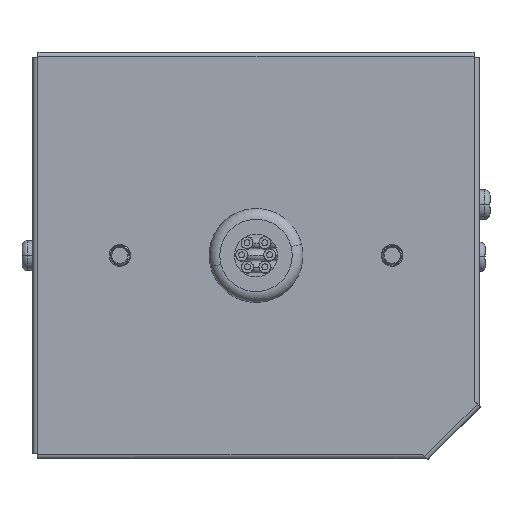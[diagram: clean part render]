
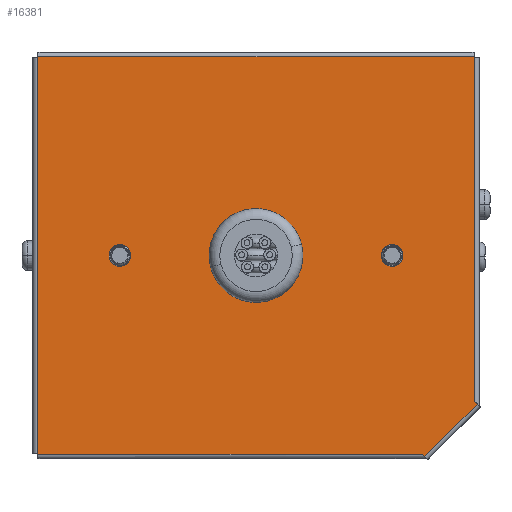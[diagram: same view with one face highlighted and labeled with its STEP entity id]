
A CAD part, top view. The second image highlights one B-rep face of the part: STEP entity #16381.
In plain terms, the highlighted planar face has unit normal (0, 0, 1).
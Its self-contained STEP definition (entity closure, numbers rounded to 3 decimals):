
#10057=DIRECTION('',(0.707,-0.707,0.));
#10058=VECTOR('',#10057,0.566);
#10059=CARTESIAN_POINT('',(31.05,-37.1,0.8));
#10060=LINE('',#10059,#10058);
#10061=DIRECTION('',(0.,-1.,0.));
#10062=VECTOR('',#10061,0.1);
#10063=CARTESIAN_POINT('',(-40.75,-37.,0.8));
#10064=LINE('',#10063,#10062);
#10065=DIRECTION('',(1.,0.,0.));
#10066=VECTOR('',#10065,0.1);
#10067=CARTESIAN_POINT('',(-40.85,-37.,0.8));
#10068=LINE('',#10067,#10066);
#10069=DIRECTION('',(-1.,0.,0.));
#10070=VECTOR('',#10069,0.1);
#10071=CARTESIAN_POINT('',(-40.75,37.,0.8));
#10072=LINE('',#10071,#10070);
#10073=DIRECTION('',(0.,-1.,0.));
#10074=VECTOR('',#10073,0.1);
#10075=CARTESIAN_POINT('',(-40.75,37.1,0.8));
#10076=LINE('',#10075,#10074);
#10077=DIRECTION('',(0.,1.,0.));
#10078=VECTOR('',#10077,0.1);
#10079=CARTESIAN_POINT('',(40.75,37.,0.8));
#10080=LINE('',#10079,#10078);
#10081=DIRECTION('',(-1.,0.,0.));
#10082=VECTOR('',#10081,0.1);
#10083=CARTESIAN_POINT('',(40.85,37.,0.8));
#10084=LINE('',#10083,#10082);
#10085=DIRECTION('',(-0.707,0.707,0.));
#10086=VECTOR('',#10085,0.566);
#10087=CARTESIAN_POINT('',(41.25,-27.7,0.8));
#10088=LINE('',#10087,#10086);
#10089=DIRECTION('',(0.707,0.707,0.));
#10090=VECTOR('',#10089,13.859);
#10091=CARTESIAN_POINT('',(31.45,-37.5,0.8));
#10092=LINE('',#10091,#10090);
#10093=CARTESIAN_POINT('',(25.4,0.,0.8));
#10094=DIRECTION('',(0.,0.,-1.));
#10095=DIRECTION('',(-1.,0.,0.));
#10096=AXIS2_PLACEMENT_3D('',#10093,#10094,#10095);
#10098=CARTESIAN_POINT('',(25.4,0.,0.8));
#10099=DIRECTION('',(0.,0.,-1.));
#10100=DIRECTION('',(1.,0.,0.));
#10101=AXIS2_PLACEMENT_3D('',#10098,#10099,#10100);
#10103=CARTESIAN_POINT('',(25.4,0.,0.8));
#10104=DIRECTION('',(0.,0.,-1.));
#10105=DIRECTION('',(0.,1.,0.));
#10106=AXIS2_PLACEMENT_3D('',#10103,#10104,#10105);
#10108=CARTESIAN_POINT('',(0.,0.,0.8));
#10109=DIRECTION('',(0.,0.,-1.));
#10110=DIRECTION('',(1.,0.,0.));
#10111=AXIS2_PLACEMENT_3D('',#10108,#10109,#10110);
#10113=CARTESIAN_POINT('',(0.,0.,0.8));
#10114=DIRECTION('',(0.,0.,-1.));
#10115=DIRECTION('',(-1.,0.,0.));
#10116=AXIS2_PLACEMENT_3D('',#10113,#10114,#10115);
#10118=CARTESIAN_POINT('',(-25.4,0.,0.8));
#10119=DIRECTION('',(0.,0.,-1.));
#10120=DIRECTION('',(-1.,0.,0.));
#10121=AXIS2_PLACEMENT_3D('',#10118,#10119,#10120);
#10123=CARTESIAN_POINT('',(-25.4,0.,0.8));
#10124=DIRECTION('',(0.,0.,-1.));
#10125=DIRECTION('',(1.,0.,0.));
#10126=AXIS2_PLACEMENT_3D('',#10123,#10124,#10125);
#10128=CARTESIAN_POINT('',(-25.4,0.,0.8));
#10129=DIRECTION('',(0.,0.,-1.));
#10130=DIRECTION('',(0.,1.,0.));
#10131=AXIS2_PLACEMENT_3D('',#10128,#10129,#10130);
#10218=DIRECTION('',(0.,-1.,0.));
#10219=VECTOR('',#10218,64.3);
#10220=CARTESIAN_POINT('',(40.85,37.,0.8));
#10221=LINE('',#10220,#10219);
#10510=DIRECTION('',(1.,0.,0.));
#10511=VECTOR('',#10510,81.5);
#10512=CARTESIAN_POINT('',(-40.75,37.1,0.8));
#10513=LINE('',#10512,#10511);
#10880=DIRECTION('',(0.,1.,0.));
#10881=VECTOR('',#10880,74.);
#10882=CARTESIAN_POINT('',(-40.85,-37.,0.8));
#10883=LINE('',#10882,#10881);
#10922=DIRECTION('',(-1.,0.,0.));
#10923=VECTOR('',#10922,71.8);
#10924=CARTESIAN_POINT('',(31.05,-37.1,0.8));
#10925=LINE('',#10924,#10923);
#13533=CARTESIAN_POINT('',(-23.4,0.,0.8));
#13534=CARTESIAN_POINT('',(-27.4,0.,0.8));
#13535=VERTEX_POINT('',#13533);
#13536=VERTEX_POINT('',#13534);
#13648=CARTESIAN_POINT('',(27.4,0.,0.8));
#13649=VERTEX_POINT('',#13648);
#13650=CARTESIAN_POINT('',(25.4,2.,0.8));
#13651=VERTEX_POINT('',#13650);
#13656=CARTESIAN_POINT('',(23.4,0.,0.8));
#13658=VERTEX_POINT('',#13656);
#13673=CARTESIAN_POINT('',(5.5,0.,0.8));
#13675=VERTEX_POINT('',#13673);
#13691=CARTESIAN_POINT('',(-5.5,0.,0.8));
#13693=VERTEX_POINT('',#13691);
#13706=CARTESIAN_POINT('',(-40.75,37.,0.8));
#13707=CARTESIAN_POINT('',(-40.85,37.,0.8));
#13708=VERTEX_POINT('',#13706);
#13709=VERTEX_POINT('',#13707);
#13722=CARTESIAN_POINT('',(31.45,-37.5,0.8));
#13723=CARTESIAN_POINT('',(41.25,-27.7,0.8));
#13724=VERTEX_POINT('',#13722);
#13725=VERTEX_POINT('',#13723);
#13726=CARTESIAN_POINT('',(40.85,37.,0.8));
#13727=CARTESIAN_POINT('',(40.75,37.,0.8));
#13728=VERTEX_POINT('',#13726);
#13729=VERTEX_POINT('',#13727);
#13732=CARTESIAN_POINT('',(-40.85,-37.,0.8));
#13733=VERTEX_POINT('',#13732);
#13762=CARTESIAN_POINT('',(-40.75,37.1,0.8));
#13763=CARTESIAN_POINT('',(40.75,37.1,0.8));
#13764=VERTEX_POINT('',#13762);
#13765=VERTEX_POINT('',#13763);
#13776=CARTESIAN_POINT('',(-40.75,-37.,0.8));
#13777=VERTEX_POINT('',#13776);
#13782=CARTESIAN_POINT('',(-40.75,-37.1,0.8));
#13783=VERTEX_POINT('',#13782);
#13786=CARTESIAN_POINT('',(31.05,-37.1,0.8));
#13787=VERTEX_POINT('',#13786);
#13796=CARTESIAN_POINT('',(40.85,-27.3,0.8));
#13797=VERTEX_POINT('',#13796);
#13927=CARTESIAN_POINT('',(-25.4,2.,0.8));
#13928=VERTEX_POINT('',#13927);
#16327=CARTESIAN_POINT('',(-40.85,-37.1,0.8));
#16328=DIRECTION('',(0.,0.,1.));
#16329=DIRECTION('',(1.,0.,0.));
#16330=AXIS2_PLACEMENT_3D('',#16327,#16328,#16329);
#16331=PLANE('',#16330);
#16333=ORIENTED_EDGE('',*,*,#16332,.F.);
#16335=ORIENTED_EDGE('',*,*,#16334,.T.);
#16337=ORIENTED_EDGE('',*,*,#16336,.F.);
#16339=ORIENTED_EDGE('',*,*,#16338,.F.);
#16341=ORIENTED_EDGE('',*,*,#16340,.T.);
#16343=ORIENTED_EDGE('',*,*,#16342,.F.);
#16345=ORIENTED_EDGE('',*,*,#16344,.F.);
#16347=ORIENTED_EDGE('',*,*,#16346,.T.);
#16349=ORIENTED_EDGE('',*,*,#16348,.F.);
#16351=ORIENTED_EDGE('',*,*,#16350,.F.);
#16353=ORIENTED_EDGE('',*,*,#16352,.T.);
#16355=ORIENTED_EDGE('',*,*,#16354,.F.);
#16357=ORIENTED_EDGE('',*,*,#16356,.F.);
#16358=EDGE_LOOP('',(#16333,#16335,#16337,#16339,#16341,#16343,#16345,#16347,
#16349,#16351,#16353,#16355,#16357));
#16359=FACE_OUTER_BOUND('',#16358,.F.);
#16361=ORIENTED_EDGE('',*,*,#16360,.F.);
#16363=ORIENTED_EDGE('',*,*,#16362,.F.);
#16364=ORIENTED_EDGE('',*,*,#15814,.F.);
#16365=EDGE_LOOP('',(#16361,#16363,#16364));
#16366=FACE_BOUND('',#16365,.F.);
#16368=ORIENTED_EDGE('',*,*,#16367,.F.);
#16370=ORIENTED_EDGE('',*,*,#16369,.F.);
#16371=EDGE_LOOP('',(#16368,#16370));
#16372=FACE_BOUND('',#16371,.F.);
#16374=ORIENTED_EDGE('',*,*,#16373,.F.);
#16376=ORIENTED_EDGE('',*,*,#16375,.F.);
#16378=ORIENTED_EDGE('',*,*,#16377,.F.);
#16379=EDGE_LOOP('',(#16374,#16376,#16378));
#16380=FACE_BOUND('',#16379,.F.);
#10097=CIRCLE('',#10096,2.);
#10102=CIRCLE('',#10101,2.);
#10107=CIRCLE('',#10106,2.);
#10112=CIRCLE('',#10111,5.5);
#10117=CIRCLE('',#10116,5.5);
#10122=CIRCLE('',#10121,2.);
#10127=CIRCLE('',#10126,2.);
#10132=CIRCLE('',#10131,2.);
#15814=EDGE_CURVE('',#13651,#13649,#10107,.T.);
#16332=EDGE_CURVE('',#13787,#13724,#10060,.T.);
#16334=EDGE_CURVE('',#13787,#13783,#10925,.T.);
#16336=EDGE_CURVE('',#13777,#13783,#10064,.T.);
#16338=EDGE_CURVE('',#13733,#13777,#10068,.T.);
#16340=EDGE_CURVE('',#13733,#13709,#10883,.T.);
#16342=EDGE_CURVE('',#13708,#13709,#10072,.T.);
#16344=EDGE_CURVE('',#13764,#13708,#10076,.T.);
#16346=EDGE_CURVE('',#13764,#13765,#10513,.T.);
#16348=EDGE_CURVE('',#13729,#13765,#10080,.T.);
#16350=EDGE_CURVE('',#13728,#13729,#10084,.T.);
#16352=EDGE_CURVE('',#13728,#13797,#10221,.T.);
#16354=EDGE_CURVE('',#13725,#13797,#10088,.T.);
#16356=EDGE_CURVE('',#13724,#13725,#10092,.T.);
#16360=EDGE_CURVE('',#13658,#13651,#10097,.T.);
#16362=EDGE_CURVE('',#13649,#13658,#10102,.T.);
#16367=EDGE_CURVE('',#13675,#13693,#10112,.T.);
#16369=EDGE_CURVE('',#13693,#13675,#10117,.T.);
#16373=EDGE_CURVE('',#13536,#13928,#10122,.T.);
#16375=EDGE_CURVE('',#13535,#13536,#10127,.T.);
#16377=EDGE_CURVE('',#13928,#13535,#10132,.T.);
#16381=ADVANCED_FACE('',(#16359,#16366,#16372,#16380),#16331,.T.);
